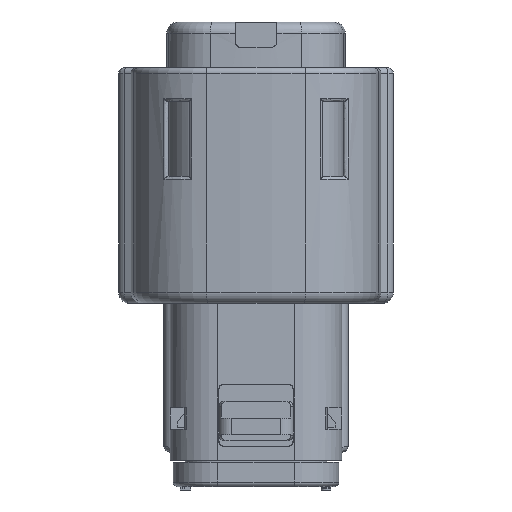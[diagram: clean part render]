
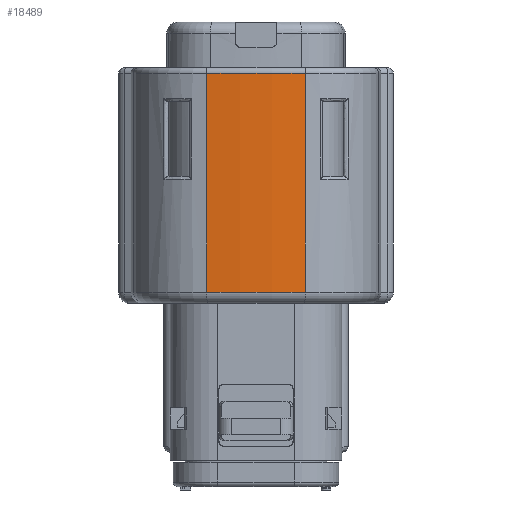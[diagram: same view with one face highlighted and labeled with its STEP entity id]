
A CAD part, front view. The second image highlights one B-rep face of the part: STEP entity #18489.
In plain terms, the highlighted cylindrical face has radius 39.834 mm (diameter 79.668 mm), a partial arc.
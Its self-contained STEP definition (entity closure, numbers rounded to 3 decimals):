
#226=CARTESIAN_POINT('',(2.54,25.196,1.75));
#227=DIRECTION('',(0.,0.,1.));
#228=DIRECTION('',(-0.11,-0.994,0.));
#229=AXIS2_PLACEMENT_3D('',#226,#227,#228);
#1081=DIRECTION('',(0.,0.,-1.));
#1082=VECTOR('',#1081,19.4);
#1083=CARTESIAN_POINT('',(-1.834,-14.397,1.75));
#1084=LINE('',#1083,#1082);
#1085=DIRECTION('',(0.,0.,-1.));
#1086=VECTOR('',#1085,19.4);
#1087=CARTESIAN_POINT('',(6.914,-14.397,1.75));
#1088=LINE('',#1087,#1086);
#12934=CARTESIAN_POINT('',(2.54,25.196,-17.65));
#12935=DIRECTION('',(0.,0.,-1.));
#12936=DIRECTION('',(0.11,-0.994,0.));
#12937=AXIS2_PLACEMENT_3D('',#12934,#12935,#12936);
#13157=CARTESIAN_POINT('',(6.914,-14.397,1.75));
#13159=VERTEX_POINT('',#13157);
#13161=CARTESIAN_POINT('',(-1.834,-14.397,1.75));
#13162=VERTEX_POINT('',#13161);
#13188=CARTESIAN_POINT('',(6.914,-14.397,-17.65));
#13190=VERTEX_POINT('',#13188);
#13259=CARTESIAN_POINT('',(-1.834,-14.397,-17.65));
#13260=VERTEX_POINT('',#13259);
#18476=CARTESIAN_POINT('',(2.54,25.196,2.25));
#18477=DIRECTION('',(0.,0.,-1.));
#18478=DIRECTION('',(1.,0.,0.));
#18479=AXIS2_PLACEMENT_3D('',#18476,#18477,#18478);
#18480=CYLINDRICAL_SURFACE('',#18479,39.834);
#18481=ORIENTED_EDGE('',*,*,#18457,.F.);
#18482=ORIENTED_EDGE('',*,*,#16491,.T.);
#18484=ORIENTED_EDGE('',*,*,#18483,.T.);
#18486=ORIENTED_EDGE('',*,*,#18485,.T.);
#18487=EDGE_LOOP('',(#18481,#18482,#18484,#18486));
#18488=FACE_OUTER_BOUND('',#18487,.F.);
#18489=ADVANCED_FACE('',(#18488),#18480,.T.);
#230=CIRCLE('',#229,39.834);
#12938=CIRCLE('',#12937,39.834);
#16491=EDGE_CURVE('',#13162,#13159,#230,.T.);
#18457=EDGE_CURVE('',#13162,#13260,#1084,.T.);
#18483=EDGE_CURVE('',#13159,#13190,#1088,.T.);
#18485=EDGE_CURVE('',#13190,#13260,#12938,.T.);
